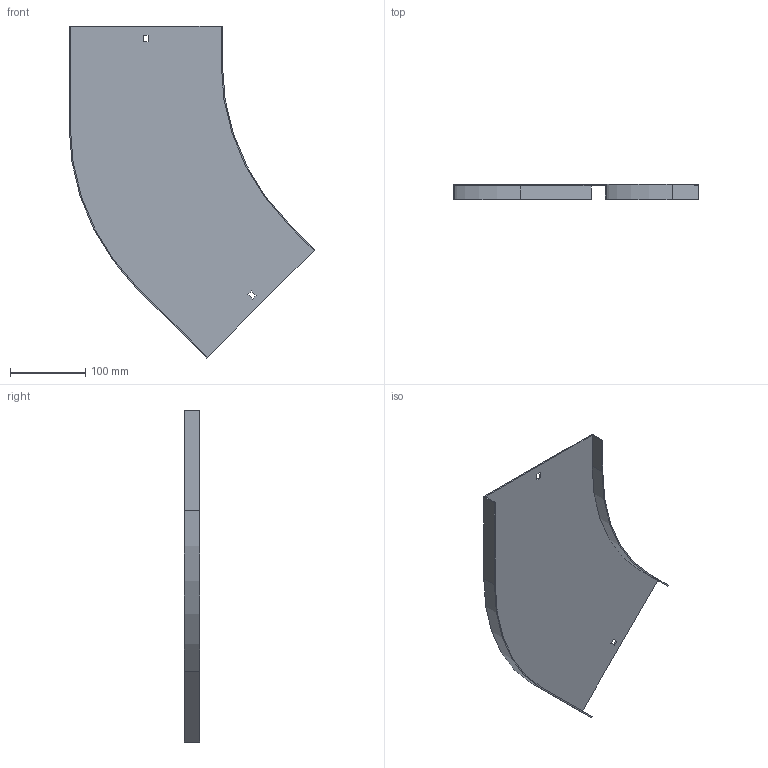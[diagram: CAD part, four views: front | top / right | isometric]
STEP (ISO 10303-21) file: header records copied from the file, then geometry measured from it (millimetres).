
FILE_DESCRIPTION (( 'STEP AP214' ), '1' );
FILE_NAME ('B2_11N3R200.step', '2025-02-21T10:51:00', ( '' ), ( '' ), 'SwSTEP 2.0', 'SolidWorks 2023', '' );
FILE_SCHEMA (( 'AUTOMOTIVE_DESIGN' ));
Length unit declared in the file: millimetre
Products named in the file (1): B2_11N3R200
Bounding box: 325.78 x 20 x 439.97 mm (x, y, z)
Volume: 154343.5 mm3; surface area: 207859.7 mm2
Topology: 1 solids, 1 shells, 26 faces, 72 edges, 48 vertices
Faces by surface type: plane 22, cylinder 4
Entity records: 855 total; most frequent: CARTESIAN_POINT 147, ORIENTED_EDGE 144, DIRECTION 134, EDGE_CURVE 72, VECTOR 64, LINE 64, VERTEX_POINT 48, AXIS2_PLACEMENT_3D 35
